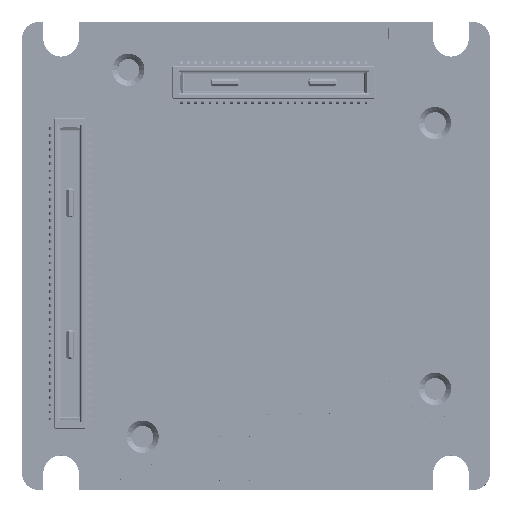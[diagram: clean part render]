
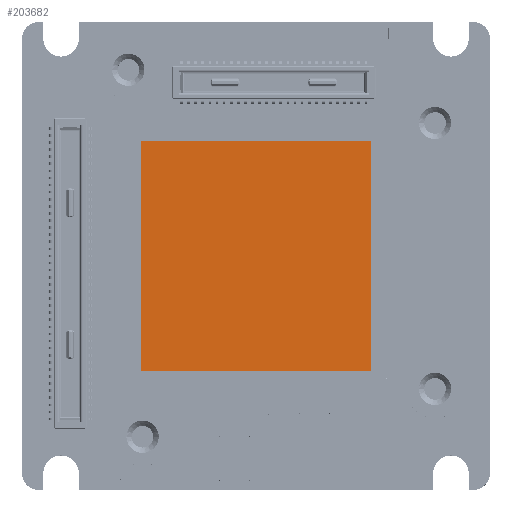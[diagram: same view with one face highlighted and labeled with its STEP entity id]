
A CAD part, top view. The second image highlights one B-rep face of the part: STEP entity #203682.
In plain terms, the highlighted planar face has unit normal (0, 0, 1).
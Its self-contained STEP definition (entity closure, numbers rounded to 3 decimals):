
#19827 = PLANE ( 'NONE',  #572865 ) ;
#41486 = LINE ( 'NONE', #489865, #641526 ) ;
#63024 = ORIENTED_EDGE ( 'NONE', *, *, #550314, .F. ) ;
#69665 = FACE_OUTER_BOUND ( 'NONE', #122735, .T. ) ;
#76108 = CARTESIAN_POINT ( 'NONE',  ( 0., 0., 6.162 ) ) ;
#89080 = DIRECTION ( 'NONE',  ( 0., 0., -1. ) ) ;
#122735 = EDGE_LOOP ( 'NONE', ( #513846, #247970, #240789, #63024 ) ) ;
#126154 = CARTESIAN_POINT ( 'NONE',  ( 6.5, 6.5, 6.162 ) ) ;
#187215 = DIRECTION ( 'NONE',  ( 0., -1., 0. ) ) ;
#201745 = LINE ( 'NONE', #504029, #547367 ) ;
#203644 = CARTESIAN_POINT ( 'NONE',  ( 6.5, -6.5, 6.162 ) ) ;
#203682 = ADVANCED_FACE ( 'NONE', ( #69665 ), #19827, .F. ) ;
#217796 = CARTESIAN_POINT ( 'NONE',  ( -6.5, 6.5, 6.162 ) ) ;
#240789 = ORIENTED_EDGE ( 'NONE', *, *, #354055, .F. ) ;
#243888 = DIRECTION ( 'NONE',  ( -1., 0., 0. ) ) ;
#247970 = ORIENTED_EDGE ( 'NONE', *, *, #323328, .F. ) ;
#251494 = DIRECTION ( 'NONE',  ( 0., 1., 0. ) ) ;
#297908 = LINE ( 'NONE', #440844, #459680 ) ;
#323328 = EDGE_CURVE ( 'NONE', #365556, #516333, #638813, .T. ) ;
#354055 = EDGE_CURVE ( 'NONE', #530018, #365556, #297908, .T. ) ;
#365556 = VERTEX_POINT ( 'NONE', #126154 ) ;
#392892 = CARTESIAN_POINT ( 'NONE',  ( 6.5, 6.5, 6.162 ) ) ;
#425456 = VECTOR ( 'NONE', #187215, 1000. ) ;
#440844 = CARTESIAN_POINT ( 'NONE',  ( -6.5, 6.5, 6.162 ) ) ;
#459680 = VECTOR ( 'NONE', #500582, 1000. ) ;
#489865 = CARTESIAN_POINT ( 'NONE',  ( 6.5, -6.5, 6.162 ) ) ;
#500582 = DIRECTION ( 'NONE',  ( 1., 0., 0. ) ) ;
#504029 = CARTESIAN_POINT ( 'NONE',  ( -6.5, -6.5, 6.162 ) ) ;
#513846 = ORIENTED_EDGE ( 'NONE', *, *, #626817, .F. ) ;
#516333 = VERTEX_POINT ( 'NONE', #203644 ) ;
#523266 = CARTESIAN_POINT ( 'NONE',  ( -6.5, -6.5, 6.162 ) ) ;
#530018 = VERTEX_POINT ( 'NONE', #217796 ) ;
#540729 = DIRECTION ( 'NONE',  ( 0., -1., 0. ) ) ;
#547367 = VECTOR ( 'NONE', #251494, 1000. ) ;
#550314 = EDGE_CURVE ( 'NONE', #644909, #530018, #201745, .T. ) ;
#572865 = AXIS2_PLACEMENT_3D ( 'NONE', #76108, #89080, #540729 ) ;
#626817 = EDGE_CURVE ( 'NONE', #516333, #644909, #41486, .T. ) ;
#638813 = LINE ( 'NONE', #392892, #425456 ) ;
#641526 = VECTOR ( 'NONE', #243888, 1000. ) ;
#644909 = VERTEX_POINT ( 'NONE', #523266 ) ;
